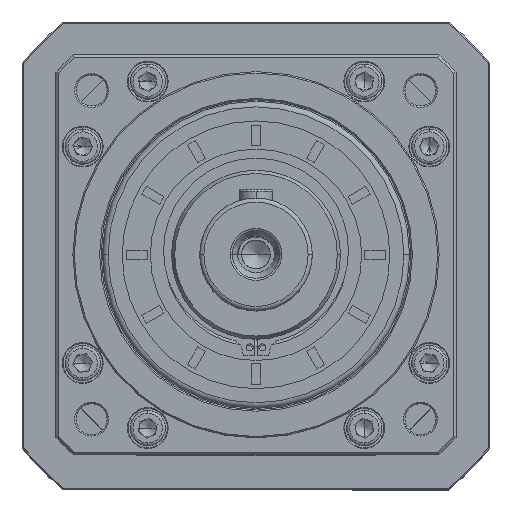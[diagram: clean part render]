
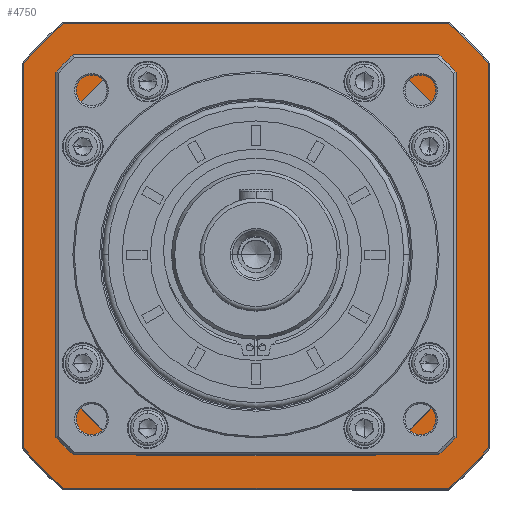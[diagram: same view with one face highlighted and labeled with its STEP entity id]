
A CAD part, top view. The second image highlights one B-rep face of the part: STEP entity #4750.
In plain terms, the highlighted planar face has unit normal (0, 0, 1).
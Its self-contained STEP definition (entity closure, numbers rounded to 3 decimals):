
#627 = PLANE ( 'NONE',  #53513 ) ;
#2152 = DIRECTION ( 'NONE',  ( 0., 0., -1. ) ) ;
#4750 = ADVANCED_FACE ( 'NONE', ( #84491, #44503 ), #627, .F. ) ;
#5303 = LINE ( 'NONE', #89162, #58743 ) ;
#7399 = AXIS2_PLACEMENT_3D ( 'NONE', #100407, #25543, #73497 ) ;
#8845 = VERTEX_POINT ( 'NONE', #27709 ) ;
#10398 = LINE ( 'NONE', #42554, #54871 ) ;
#10525 = DIRECTION ( 'NONE',  ( 0., 0., 1. ) ) ;
#10935 = VECTOR ( 'NONE', #25572, 1000. ) ;
#11994 = LINE ( 'NONE', #11998, #96498 ) ;
#11998 = CARTESIAN_POINT ( 'NONE',  ( 232.287, 38.529, 68.41 ) ) ;
#12599 = AXIS2_PLACEMENT_3D ( 'NONE', #24220, #60146, #32101 ) ;
#14572 = VERTEX_POINT ( 'NONE', #23110 ) ;
#15224 = EDGE_CURVE ( 'NONE', #117412, #63576, #92187, .T. ) ;
#16288 = VERTEX_POINT ( 'NONE', #95538 ) ;
#19447 = ORIENTED_EDGE ( 'NONE', *, *, #71667, .F. ) ;
#20242 = LINE ( 'NONE', #99891, #118032 ) ;
#20696 = DIRECTION ( 'NONE',  ( -1., 0., 0. ) ) ;
#21697 = EDGE_CURVE ( 'NONE', #73928, #14572, #85325, .T. ) ;
#21956 = AXIS2_PLACEMENT_3D ( 'NONE', #96639, #2152, #49819 ) ;
#22412 = ORIENTED_EDGE ( 'NONE', *, *, #22418, .F. ) ;
#22418 = EDGE_CURVE ( 'NONE', #8845, #32878, #65719, .T. ) ;
#23110 = CARTESIAN_POINT ( 'NONE',  ( 191.665, 109.029, 68.41 ) ) ;
#23145 = DIRECTION ( 'NONE',  ( 1., 0., 0. ) ) ;
#24220 = CARTESIAN_POINT ( 'NONE',  ( 149.787, 38.529, 68.41 ) ) ;
#25177 = LINE ( 'NONE', #72295, #41418 ) ;
#25415 = VERTEX_POINT ( 'NONE', #66124 ) ;
#25543 = DIRECTION ( 'NONE',  ( 0., 0., 1. ) ) ;
#25572 = DIRECTION ( 'NONE',  ( -1., 0., 0. ) ) ;
#25653 = ORIENTED_EDGE ( 'NONE', *, *, #21697, .F. ) ;
#27709 = CARTESIAN_POINT ( 'NONE',  ( 67.287, 106.667, 68.41 ) ) ;
#28393 = DIRECTION ( 'NONE',  ( 0., 0., -1. ) ) ;
#30557 = CARTESIAN_POINT ( 'NONE',  ( 107.909, -31.971, 68.41 ) ) ;
#31698 = VERTEX_POINT ( 'NONE', #30557 ) ;
#32101 = DIRECTION ( 'NONE',  ( 0., -1., 0. ) ) ;
#32878 = VERTEX_POINT ( 'NONE', #41241 ) ;
#35984 = VECTOR ( 'NONE', #77103, 1000. ) ;
#36731 = CIRCLE ( 'NONE', #116346, 107. ) ;
#37181 = ORIENTED_EDGE ( 'NONE', *, *, #85725, .F. ) ;
#41241 = CARTESIAN_POINT ( 'NONE',  ( 81.649, 121.029, 68.41 ) ) ;
#41418 = VECTOR ( 'NONE', #61510, 1000. ) ;
#42554 = CARTESIAN_POINT ( 'NONE',  ( 220.787, -31.971, 68.41 ) ) ;
#42696 = EDGE_CURVE ( 'NONE', #85609, #25415, #48991, .T. ) ;
#44503 = FACE_BOUND ( 'NONE', #112425, .T. ) ;
#44524 = ORIENTED_EDGE ( 'NONE', *, *, #67626, .F. ) ;
#45536 = ORIENTED_EDGE ( 'NONE', *, *, #71014, .F. ) ;
#45917 = EDGE_CURVE ( 'NONE', #89283, #8845, #20242, .T. ) ;
#46702 = CARTESIAN_POINT ( 'NONE',  ( 149.787, 38.529, 68.41 ) ) ;
#47429 = ORIENTED_EDGE ( 'NONE', *, *, #68716, .F. ) ;
#48991 = CIRCLE ( 'NONE', #7399, 82. ) ;
#48996 = CARTESIAN_POINT ( 'NONE',  ( 220.287, 80.407, 68.41 ) ) ;
#49290 = CARTESIAN_POINT ( 'NONE',  ( 79.287, -32.471, 68.41 ) ) ;
#49685 = CIRCLE ( 'NONE', #56945, 107. ) ;
#49819 = DIRECTION ( 'NONE',  ( -1., 0., 0. ) ) ;
#50426 = VERTEX_POINT ( 'NONE', #90336 ) ;
#50916 = CARTESIAN_POINT ( 'NONE',  ( 79.287, -3.349, 68.41 ) ) ;
#51069 = AXIS2_PLACEMENT_3D ( 'NONE', #106115, #59586, #69127 ) ;
#53043 = VERTEX_POINT ( 'NONE', #98567 ) ;
#53513 = AXIS2_PLACEMENT_3D ( 'NONE', #46702, #76117, #56583 ) ;
#54133 = CARTESIAN_POINT ( 'NONE',  ( 220.287, -32.471, 68.41 ) ) ;
#54871 = VECTOR ( 'NONE', #23145, 1000. ) ;
#56047 = EDGE_CURVE ( 'NONE', #31698, #85609, #10398, .T. ) ;
#56583 = DIRECTION ( 'NONE',  ( -1., 0., 0. ) ) ;
#56945 = AXIS2_PLACEMENT_3D ( 'NONE', #66737, #28393, #95342 ) ;
#57036 = DIRECTION ( 'NONE',  ( 0., 0., -1. ) ) ;
#58743 = VECTOR ( 'NONE', #70077, 1000. ) ;
#59167 = DIRECTION ( 'NONE',  ( 0., -1., 0. ) ) ;
#59246 = VERTEX_POINT ( 'NONE', #74128 ) ;
#59586 = DIRECTION ( 'NONE',  ( 0., 0., 1. ) ) ;
#60146 = DIRECTION ( 'NONE',  ( 0., 0., 1. ) ) ;
#61510 = DIRECTION ( 'NONE',  ( 1., 0., 0. ) ) ;
#63358 = LINE ( 'NONE', #54133, #84065 ) ;
#63576 = VERTEX_POINT ( 'NONE', #50916 ) ;
#64726 = CARTESIAN_POINT ( 'NONE',  ( 149.787, 38.529, 68.41 ) ) ;
#65567 = CARTESIAN_POINT ( 'NONE',  ( 191.665, -31.971, 68.41 ) ) ;
#65579 = CARTESIAN_POINT ( 'NONE',  ( 79.287, 80.407, 68.41 ) ) ;
#65719 = CIRCLE ( 'NONE', #92788, 107. ) ;
#65936 = ORIENTED_EDGE ( 'NONE', *, *, #68139, .F. ) ;
#66124 = CARTESIAN_POINT ( 'NONE',  ( 220.287, -3.349, 68.41 ) ) ;
#66737 = CARTESIAN_POINT ( 'NONE',  ( 149.787, 38.529, 68.41 ) ) ;
#67233 = CARTESIAN_POINT ( 'NONE',  ( 149.787, 38.529, 68.41 ) ) ;
#67626 = EDGE_CURVE ( 'NONE', #101408, #89283, #36731, .T. ) ;
#68139 = EDGE_CURVE ( 'NONE', #25415, #73928, #63358, .T. ) ;
#68523 = ORIENTED_EDGE ( 'NONE', *, *, #108753, .F. ) ;
#68716 = EDGE_CURVE ( 'NONE', #50426, #108887, #49685, .T. ) ;
#69127 = DIRECTION ( 'NONE',  ( 0., -1., 0. ) ) ;
#70077 = DIRECTION ( 'NONE',  ( -1., 0., 0. ) ) ;
#71014 = EDGE_CURVE ( 'NONE', #16288, #117412, #101297, .T. ) ;
#71667 = EDGE_CURVE ( 'NONE', #53043, #50426, #11994, .T. ) ;
#71798 = EDGE_LOOP ( 'NONE', ( #37181, #47429, #19447, #84862, #119248, #22412, #86260, #44524 ) ) ;
#72295 = CARTESIAN_POINT ( 'NONE',  ( 149.787, 121.029, 68.41 ) ) ;
#73497 = DIRECTION ( 'NONE',  ( 1., 0., 0. ) ) ;
#73928 = VERTEX_POINT ( 'NONE', #48996 ) ;
#74128 = CARTESIAN_POINT ( 'NONE',  ( 217.925, 121.029, 68.41 ) ) ;
#74310 = DIRECTION ( 'NONE',  ( 0., 0., -1. ) ) ;
#75340 = CARTESIAN_POINT ( 'NONE',  ( 81.649, -43.971, 68.41 ) ) ;
#76117 = DIRECTION ( 'NONE',  ( 0., 0., -1. ) ) ;
#77103 = DIRECTION ( 'NONE',  ( 0., -1., 0. ) ) ;
#77395 = CARTESIAN_POINT ( 'NONE',  ( 149.787, 38.529, 68.41 ) ) ;
#80224 = ORIENTED_EDGE ( 'NONE', *, *, #15224, .F. ) ;
#82148 = LINE ( 'NONE', #117877, #10935 ) ;
#83810 = DIRECTION ( 'NONE',  ( -1., 0., 0. ) ) ;
#84065 = VECTOR ( 'NONE', #121300, 1000. ) ;
#84491 = FACE_OUTER_BOUND ( 'NONE', #71798, .T. ) ;
#84862 = ORIENTED_EDGE ( 'NONE', *, *, #102677, .F. ) ;
#85325 = CIRCLE ( 'NONE', #12599, 82. ) ;
#85609 = VERTEX_POINT ( 'NONE', #65567 ) ;
#85725 = EDGE_CURVE ( 'NONE', #108887, #101408, #5303, .T. ) ;
#86260 = ORIENTED_EDGE ( 'NONE', *, *, #45917, .F. ) ;
#88448 = EDGE_CURVE ( 'NONE', #32878, #59246, #25177, .T. ) ;
#89162 = CARTESIAN_POINT ( 'NONE',  ( 149.787, -43.971, 68.41 ) ) ;
#89283 = VERTEX_POINT ( 'NONE', #99397 ) ;
#90336 = CARTESIAN_POINT ( 'NONE',  ( 232.287, -29.609, 68.41 ) ) ;
#92187 = LINE ( 'NONE', #49290, #35984 ) ;
#92788 = AXIS2_PLACEMENT_3D ( 'NONE', #77395, #57036, #20696 ) ;
#94418 = CIRCLE ( 'NONE', #21956, 107. ) ;
#95342 = DIRECTION ( 'NONE',  ( -1., 0., 0. ) ) ;
#95538 = CARTESIAN_POINT ( 'NONE',  ( 107.909, 109.029, 68.41 ) ) ;
#95881 = ORIENTED_EDGE ( 'NONE', *, *, #42696, .F. ) ;
#96498 = VECTOR ( 'NONE', #59167, 1000. ) ;
#96639 = CARTESIAN_POINT ( 'NONE',  ( 149.787, 38.529, 68.41 ) ) ;
#96653 = DIRECTION ( 'NONE',  ( 1., 0., 0. ) ) ;
#97446 = AXIS2_PLACEMENT_3D ( 'NONE', #67233, #10525, #96653 ) ;
#97935 = CIRCLE ( 'NONE', #51069, 82. ) ;
#98567 = CARTESIAN_POINT ( 'NONE',  ( 232.287, 106.667, 68.41 ) ) ;
#99397 = CARTESIAN_POINT ( 'NONE',  ( 67.287, -29.609, 68.41 ) ) ;
#99891 = CARTESIAN_POINT ( 'NONE',  ( 67.287, 38.529, 68.41 ) ) ;
#100407 = CARTESIAN_POINT ( 'NONE',  ( 149.787, 38.529, 68.41 ) ) ;
#101096 = EDGE_CURVE ( 'NONE', #63576, #31698, #97935, .T. ) ;
#101297 = CIRCLE ( 'NONE', #97446, 82. ) ;
#101408 = VERTEX_POINT ( 'NONE', #75340 ) ;
#102677 = EDGE_CURVE ( 'NONE', #59246, #53043, #94418, .T. ) ;
#106115 = CARTESIAN_POINT ( 'NONE',  ( 149.787, 38.529, 68.41 ) ) ;
#108753 = EDGE_CURVE ( 'NONE', #14572, #16288, #82148, .T. ) ;
#108887 = VERTEX_POINT ( 'NONE', #110858 ) ;
#110858 = CARTESIAN_POINT ( 'NONE',  ( 217.925, -43.971, 68.41 ) ) ;
#110884 = ORIENTED_EDGE ( 'NONE', *, *, #101096, .F. ) ;
#111142 = DIRECTION ( 'NONE',  ( 0., 1., 0. ) ) ;
#112425 = EDGE_LOOP ( 'NONE', ( #25653, #65936, #95881, #114514, #110884, #80224, #45536, #68523 ) ) ;
#114514 = ORIENTED_EDGE ( 'NONE', *, *, #56047, .F. ) ;
#116346 = AXIS2_PLACEMENT_3D ( 'NONE', #64726, #74310, #83810 ) ;
#117412 = VERTEX_POINT ( 'NONE', #65579 ) ;
#117877 = CARTESIAN_POINT ( 'NONE',  ( 220.787, 109.029, 68.41 ) ) ;
#118032 = VECTOR ( 'NONE', #111142, 1000. ) ;
#119248 = ORIENTED_EDGE ( 'NONE', *, *, #88448, .F. ) ;
#121300 = DIRECTION ( 'NONE',  ( 0., 1., 0. ) ) ;
